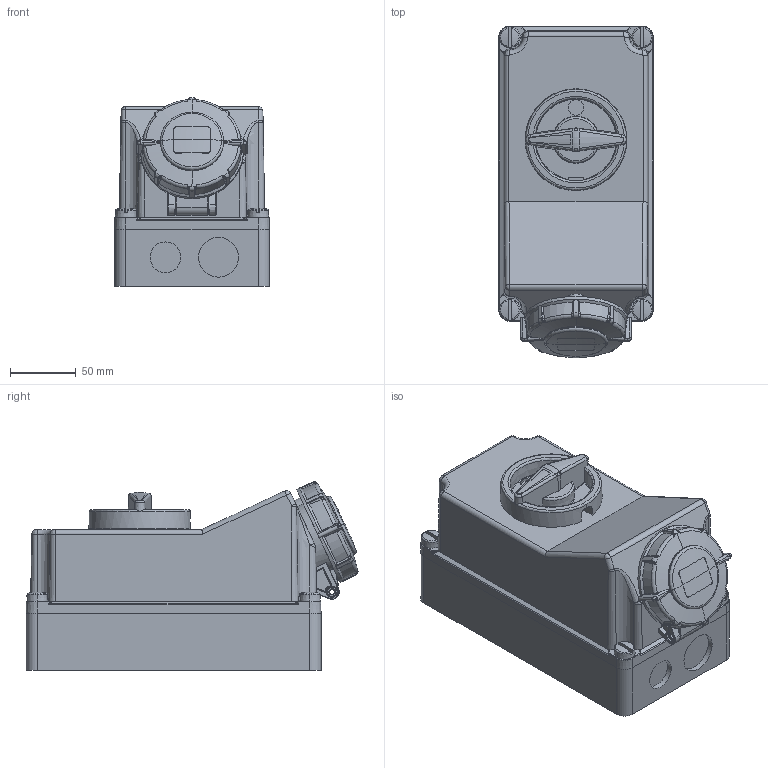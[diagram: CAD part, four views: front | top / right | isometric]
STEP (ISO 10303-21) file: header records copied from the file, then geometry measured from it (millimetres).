
FILE_DESCRIPTION((''),'2;1');
FILE_NAME('1108391_ASM_SW0001','2018-05-25T',('kremer'),('MENNEKES'),'PRO/ENGINEER BY PARAMETRIC TECHNOLOGY CORPORATION, 2015440','PRO/ENGINEER BY PARAMETRIC TECHNOLOGY CORPORATION, 2015440','');
FILE_SCHEMA(('AUTOMOTIVE_DESIGN { 1 0 10303 214 1 1 1 1 }'));
Length unit declared in the file: millimetre
Products named in the file (1): 1108391_ASM_SW0001
Bounding box: 118 x 253.19 x 143.54 mm (x, y, z)
Volume: 2921935.3 mm3; surface area: 159361.4 mm2
Topology: 1 solids, 1 shells, 763 faces, 1873 edges, 1146 vertices
Faces by surface type: cylinder 261, plane 178, bspline 169, cone 69, torus 62, sphere 24
Entity records: 36933 total; most frequent: CARTESIAN_POINT 14370, ORIENTED_EDGE 3742, DIRECTION 3276, EDGE_CURVE 1871, AXIS2_PLACEMENT_3D 1333, VERTEX_POINT 1146, EDGE_LOOP 813, FILL_AREA_STYLE_COLOUR 764
